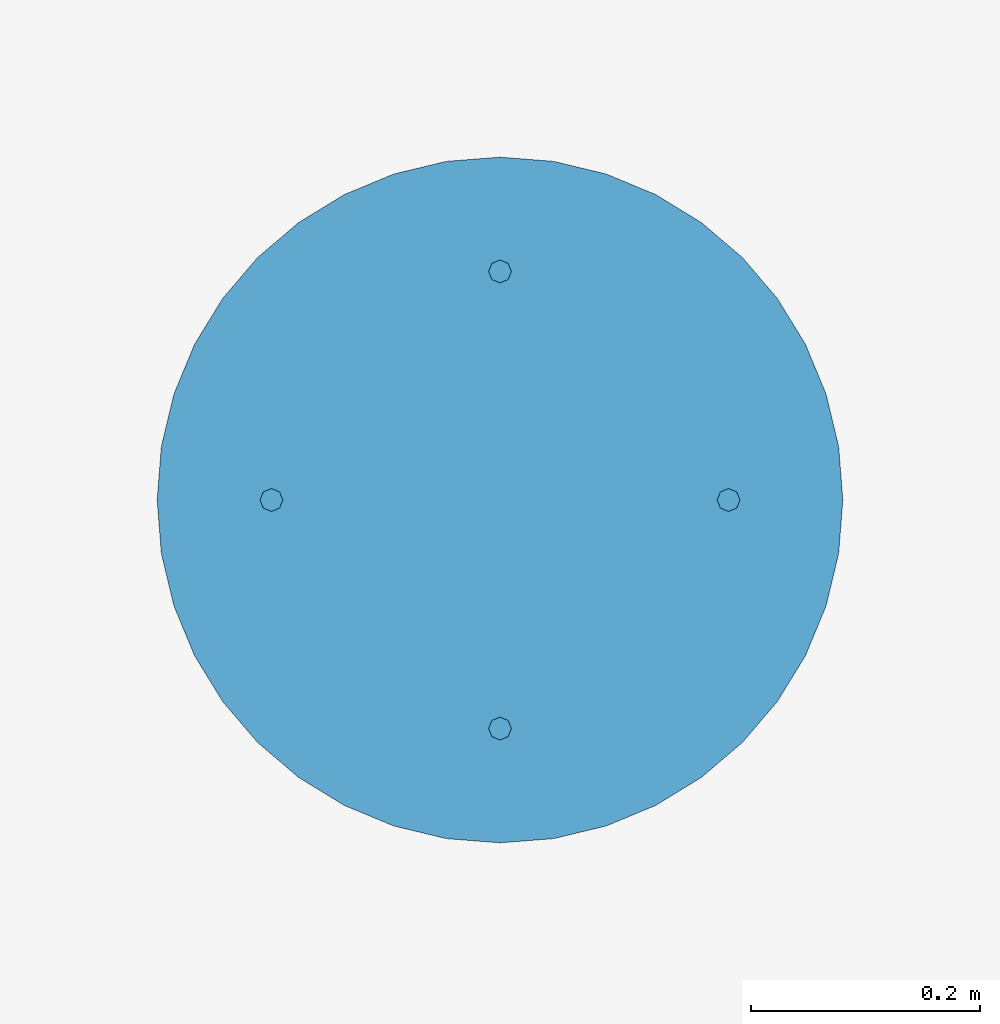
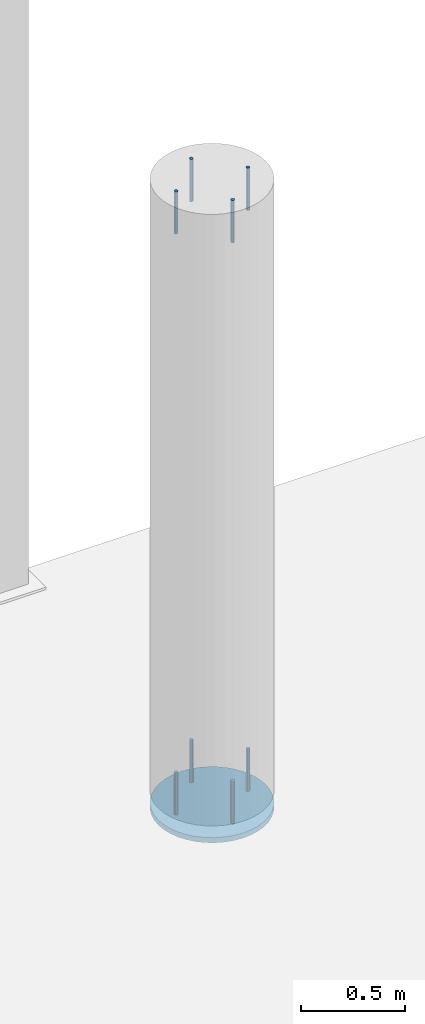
# One storey, part 4 of 6: 9 columns.
"""IFC2X3 building model written with IfcOpenShell, lengths in millimetres."""

from ifc_helpers import new_model, entity, si_unit, converted_unit, derived_unit, direction, frame, origin_with_axes, place, context, subcontext, project, spatial, faceted_brep, material, type_object, element, save


model = new_model("IFC2X3")

# Units and contexts
model_context = context("Model", 3, precision=0.01, world=frame((0.0, 4.29681676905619e-09, 0.0)), true_north=direction((6.12323399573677e-17, 1.0)))
plan_context = context("Plan", 3, precision=0.01, world=frame((0.0, 4.29681676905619e-09, 0.0)), true_north=direction((6.12323399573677e-17, 1.0)))
body_context = subcontext(model_context, "Body", "Model", "MODEL_VIEW")
ifc_project = project(units=[converted_unit("PLANEANGLEUNIT", "DEGREE", entity("IfcPositiveLengthMeasure", 0.0174532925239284), si_unit("PLANEANGLEUNIT", "RADIAN"), dimensions=[0, 0, 0, 0, 0, 0, 0]), si_unit("AREAUNIT", "SQUARE_METRE"), si_unit("LENGTHUNIT", "METRE", prefix="MILLI"), si_unit("MASSUNIT", "GRAM", prefix="KILO"), si_unit("POWERUNIT", "WATT"), si_unit("PRESSUREUNIT", "PASCAL", prefix="KILO"), si_unit("FORCEUNIT", "NEWTON", prefix="KILO"), si_unit("ELECTRICVOLTAGEUNIT", "VOLT"), si_unit("ELECTRICCURRENTUNIT", "AMPERE"), si_unit("THERMODYNAMICTEMPERATUREUNIT", "DEGREE_CELSIUS"), si_unit("TIMEUNIT", "SECOND"), si_unit("VOLUMEUNIT", "CUBIC_METRE"), derived_unit("LINEARVELOCITYUNIT", [(si_unit("LENGTHUNIT", "METRE"), 1), (si_unit("TIMEUNIT", "SECOND"), -1)]), derived_unit("VOLUMETRICFLOWRATEUNIT", [(si_unit("VOLUMEUNIT", "CUBIC_METRE"), 1), (si_unit("TIMEUNIT", "SECOND"), -1)]), derived_unit("THERMALTRANSMITTANCEUNIT", [(si_unit("POWERUNIT", "WATT"), 1), (si_unit("THERMODYNAMICTEMPERATUREUNIT", "KELVIN"), -1), (si_unit("AREAUNIT", "SQUARE_METRE"), -1)]), derived_unit("SOUNDPRESSUREUNIT", [(si_unit("PRESSUREUNIT", "PASCAL"), 1)])], contexts=[model_context, plan_context])

# Site, building, storey
site_placement = place(None, frame((0.0, -4.29681676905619e-09, 0.0), z_axis=(0.0, 0.0, 1.0), x_axis=(1.0, 0.0, 0.0)))
site = spatial("IfcSite", under=ifc_project, at=site_placement, Name="Gardermoen", CompositionType="ELEMENT")
building_placement = place(site_placement, frame((0.0, 4.29681676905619e-09, 0.0), z_axis=(0.0, 0.0, 1.0), x_axis=(1.0, 0.0, 0.0)))
building = spatial("IfcBuilding", under=site, at=building_placement, Name="THO", CompositionType="ELEMENT")
storey_placement = place(building_placement, origin_with_axes())
storey = spatial("IfcBuildingStorey", under=building, at=storey_placement, Name="Nivå F", CompositionType="ELEMENT", Elevation=0.0)

# Columns
ifc_material = material(Name="STEEL/S355")
column_type_1 = type_object("IfcColumnType", Name="D20", PredefinedType="NOTDEFINED")
for number, where, z_axis, x_axis in (
    (1, (1126000.0, 466200.0, 210060.0), (0.0, 1.0, 0.0), (0.0, 0.0, 1.0)),
    (2, (1126000.0, 466600.0, 210060.0), (0.0, 1.0, 0.0), (0.0, 0.0, 1.0)),
    (3, (1126200.0, 466400.0, 210060.0), (0.0, 1.0, 0.0), (0.0, 0.0, 1.0)),
    (4, (1125800.0, 466400.0, 210060.0), (0.0, 1.0, 0.0), (0.0, 0.0, 1.0)),
    (5, (1126000.0, 466200.0, 213485.0), (0.0, 1.0, 0.0), (0.0, 0.0, 1.0)),
    (6, (1126000.0, 466600.0, 213485.0), (0.0, 1.0, 0.0), (0.0, 0.0, 1.0)),
    (7, (1126200.0, 466400.0, 213485.0), (0.0, 1.0, 0.0), (0.0, 0.0, 1.0)),
    (8, (1125800.0, 466400.0, 213485.0), (0.0, 1.0, 0.0), (0.0, 0.0, 1.0)),
):
    element("IfcColumn", number, at=place(storey_placement, frame(where, z_axis=z_axis, x_axis=x_axis)), inside=storey, type_object=column_type_1, material=ifc_material, Name="INNSTØPNGODS", ObjectType="D20", context=body_context, shape_type="Brep", body=[
        faceted_brep([(0.0, -10.0, 0.0), (0.0, -7.07106781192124, -7.07106781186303), (250.0, -7.07106781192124, -7.07106781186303), (250.0, -10.0, 0.0), (0.0, 0.0, -10.0), (250.0, 0.0, -10.0), (0.0, 7.07106781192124, -7.07106781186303), (250.0, 7.07106781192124, -7.07106781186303), (0.0, 10.0, 0.0), (250.0, 10.0, 0.0), (0.0, 7.07106781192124, 7.07106781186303), (250.0, 7.07106781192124, 7.07106781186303), (0.0, 0.0, 10.0), (250.0, 0.0, 10.0), (0.0, -7.07106781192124, 7.07106781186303), (250.0, -7.07106781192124, 7.07106781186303)], [[[0, 1, 2, 3]], [[1, 4, 5, 2]], [[4, 6, 7, 5]], [[6, 8, 9, 7]], [[8, 10, 11, 9]], [[10, 12, 13, 11]], [[12, 14, 15, 13]], [[14, 0, 3, 15]], [[5, 7, 9, 11, 13, 15, 3, 2]], [[14, 12, 10, 8, 6, 4, 1, 0]]]),
    ])
column_type_2 = type_object("IfcColumnType", Name="D600", PredefinedType="NOTDEFINED")
column_placement = place(storey_placement, frame((1126000.0, 466400.0, 210030.0), z_axis=(0.0, 1.0, 0.0), x_axis=(0.0, 0.0, 1.0)))
element("IfcColumn", 9, at=column_placement, inside=storey, type_object=column_type_2, material=ifc_material, Name="INNSTØPNGODS", ObjectType="D600", context=body_context, shape_type="Brep", body=[
    faceted_brep([(0.0, -300.0, 0.0), (0.0, -296.306502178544, -46.930339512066), (30.0, -296.306502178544, -46.930339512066), (30.0, -300.0, 0.0), (0.0, -285.316954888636, -92.7050983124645), (30.0, -285.316954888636, -92.7050983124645), (0.0, -267.301957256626, -136.197149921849), (30.0, -267.301957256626, -136.197149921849), (0.0, -242.705098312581, -176.335575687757), (30.0, -242.705098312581, -176.335575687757), (0.0, -212.132034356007, -212.132034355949), (30.0, -212.132034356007, -212.132034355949), (0.0, -176.335575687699, -242.705098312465), (30.0, -176.335575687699, -242.705098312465), (0.0, -136.197149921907, -267.30195725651), (30.0, -136.197149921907, -267.30195725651), (0.0, -92.705098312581, -285.31695488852), (30.0, -92.705098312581, -285.31695488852), (0.0, -46.9303395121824, -296.306502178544), (30.0, -46.9303395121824, -296.306502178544), (0.0, 0.0, -300.0), (30.0, 0.0, -300.0), (0.0, 46.9303395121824, -296.306502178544), (30.0, 46.9303395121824, -296.306502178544), (0.0, 92.705098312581, -285.31695488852), (30.0, 92.705098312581, -285.31695488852), (0.0, 136.197149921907, -267.30195725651), (30.0, 136.197149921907, -267.30195725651), (0.0, 176.335575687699, -242.705098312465), (30.0, 176.335575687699, -242.705098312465), (0.0, 212.132034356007, -212.132034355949), (30.0, 212.132034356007, -212.132034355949), (0.0, 242.705098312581, -176.335575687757), (30.0, 242.705098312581, -176.335575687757), (0.0, 267.301957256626, -136.197149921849), (30.0, 267.301957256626, -136.197149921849), (0.0, 285.316954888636, -92.7050983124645), (30.0, 285.316954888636, -92.7050983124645), (0.0, 296.306502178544, -46.930339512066), (30.0, 296.306502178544, -46.930339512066), (0.0, 300.0, 0.0), (30.0, 300.0, 0.0), (0.0, 296.306502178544, 46.930339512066), (30.0, 296.306502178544, 46.930339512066), (0.0, 285.316954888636, 92.7050983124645), (30.0, 285.316954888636, 92.7050983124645), (0.0, 267.301957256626, 136.197149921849), (30.0, 267.301957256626, 136.197149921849), (0.0, 242.705098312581, 176.335575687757), (30.0, 242.705098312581, 176.335575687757), (0.0, 212.132034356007, 212.132034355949), (30.0, 212.132034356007, 212.132034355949), (0.0, 176.335575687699, 242.705098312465), (30.0, 176.335575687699, 242.705098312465), (0.0, 136.197149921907, 267.30195725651), (30.0, 136.197149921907, 267.30195725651), (0.0, 92.705098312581, 285.31695488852), (30.0, 92.705098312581, 285.31695488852), (0.0, 46.9303395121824, 296.306502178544), (30.0, 46.9303395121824, 296.306502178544), (0.0, 0.0, 300.0), (30.0, 0.0, 300.0), (0.0, -46.9303395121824, 296.306502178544), (30.0, -46.9303395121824, 296.306502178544), (0.0, -92.705098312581, 285.31695488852), (30.0, -92.705098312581, 285.31695488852), (0.0, -136.197149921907, 267.30195725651), (30.0, -136.197149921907, 267.30195725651), (0.0, -176.335575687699, 242.705098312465), (30.0, -176.335575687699, 242.705098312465), (0.0, -212.132034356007, 212.132034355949), (30.0, -212.132034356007, 212.132034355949), (0.0, -242.705098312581, 176.335575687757), (30.0, -242.705098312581, 176.335575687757), (0.0, -267.301957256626, 136.197149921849), (30.0, -267.301957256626, 136.197149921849), (0.0, -285.316954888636, 92.7050983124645), (30.0, -285.316954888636, 92.7050983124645), (0.0, -296.306502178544, 46.930339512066), (30.0, -296.306502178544, 46.930339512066)], [[[0, 1, 2, 3]], [[1, 4, 5, 2]], [[4, 6, 7, 5]], [[6, 8, 9, 7]], [[8, 10, 11, 9]], [[10, 12, 13, 11]], [[12, 14, 15, 13]], [[14, 16, 17, 15]], [[16, 18, 19, 17]], [[18, 20, 21, 19]], [[20, 22, 23, 21]], [[22, 24, 25, 23]], [[24, 26, 27, 25]], [[26, 28, 29, 27]], [[28, 30, 31, 29]], [[30, 32, 33, 31]], [[32, 34, 35, 33]], [[34, 36, 37, 35]], [[36, 38, 39, 37]], [[38, 40, 41, 39]], [[40, 42, 43, 41]], [[42, 44, 45, 43]], [[44, 46, 47, 45]], [[46, 48, 49, 47]], [[48, 50, 51, 49]], [[50, 52, 53, 51]], [[52, 54, 55, 53]], [[54, 56, 57, 55]], [[56, 58, 59, 57]], [[58, 60, 61, 59]], [[60, 62, 63, 61]], [[62, 64, 65, 63]], [[64, 66, 67, 65]], [[66, 68, 69, 67]], [[68, 70, 71, 69]], [[70, 72, 73, 71]], [[72, 74, 75, 73]], [[74, 76, 77, 75]], [[76, 78, 79, 77]], [[78, 0, 3, 79]], [[5, 7, 9, 11, 13, 15, 17, 19, 21, 23, 25, 27, 29, 31, 33, 35, 37, 39, 41, 43, 45, 47, 49, 51, 53, 55, 57, 59, 61, 63, 65, 67, 69, 71, 73, 75, 77, 79, 3, 2]], [[78, 76, 74, 72, 70, 68, 66, 64, 62, 60, 58, 56, 54, 52, 50, 48, 46, 44, 42, 40, 38, 36, 34, 32, 30, 28, 26, 24, 22, 20, 18, 16, 14, 12, 10, 8, 6, 4, 1, 0]]]),
])

save(model, "model.ifc")
